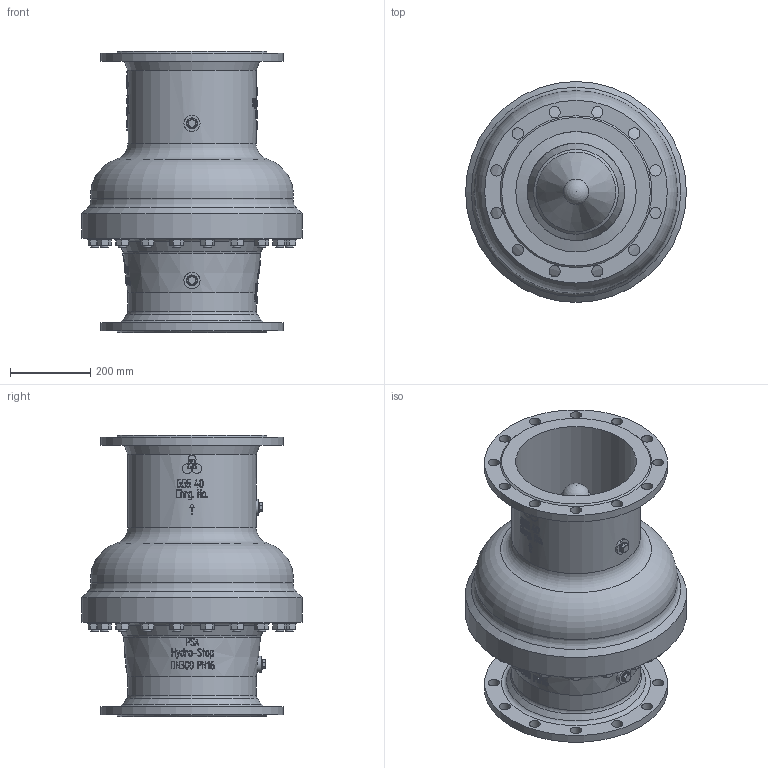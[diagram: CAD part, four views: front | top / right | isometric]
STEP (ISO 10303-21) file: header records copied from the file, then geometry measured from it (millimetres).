
FILE_DESCRIPTION(/* description */ ('PSA Hydro-Stop DN300 PN16'),/* implementation_level */ '2;1');
FILE_NAME(/* name */ 'PSA_Hydro-Stop_DN300_PN16',/* time_stamp */ '2024-10-09T15:23:29+02:00',/* author */ ('Christin-Michelle Fremgen'),/* organization */ ('PSA Wasserarmaturen GmbH'),/* preprocessor_version */ 'ST-DEVELOPER v18.104',/* originating_system */ 'Solid Edge',/* authorisation */ 'Unknown');
FILE_SCHEMA (('AP242_MANAGED_MODEL_BASED_3D_ENGINEERING_MIM_LF { 1 0 10303 442 1 1 4 }','AUTOMOTIVE_DESIGN {1 0 10303 214 3 1 1}'));
Length unit declared in the file: millimetre
Products named in the file (1): PSA_Hydro-Stop_DN300_PN16
Bounding box: 550 x 550 x 700 mm (x, y, z)
Volume: 11696824.7 mm3; surface area: 2803807.8 mm2
Topology: 24 solids, 25 shells, 1432 faces, 3531 edges, 2347 vertices
Faces by surface type: plane 679, cone 273, cylinder 239, bspline 220, torus 18, sphere 3
Full cylindrical faces by diameter (mm): 13.835 x2, 16 x1, 17.294 x2, 18.631 x2, 20 x40, 21 x22, 23 x20, 26 x2, 27 x2, 28 x24, 37 x20, 40 x2, 238 x1, 252 x1, 270 x1, 300 x2, 320 x2, 335 x1, 455 x2, 550 x1
Entity records: 64995 total; most frequent: CARTESIAN_POINT 25380, ORIENTED_EDGE 5914, DIRECTION 5392, EDGE_CURVE 2957, AXIS2_PLACEMENT_3D 2232, VERTEX_POINT 2147, EDGE_LOOP 2090, FACE_BOUND 2090
